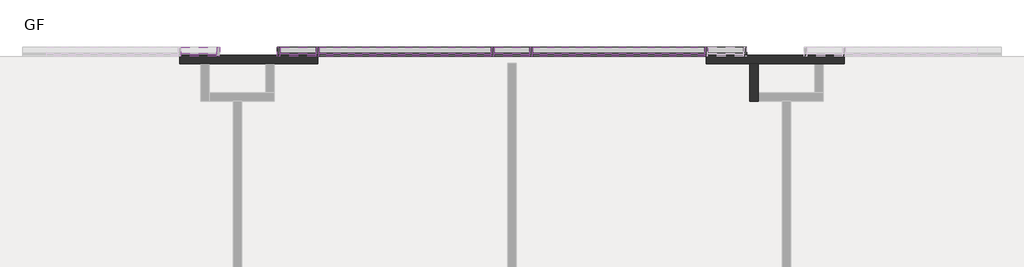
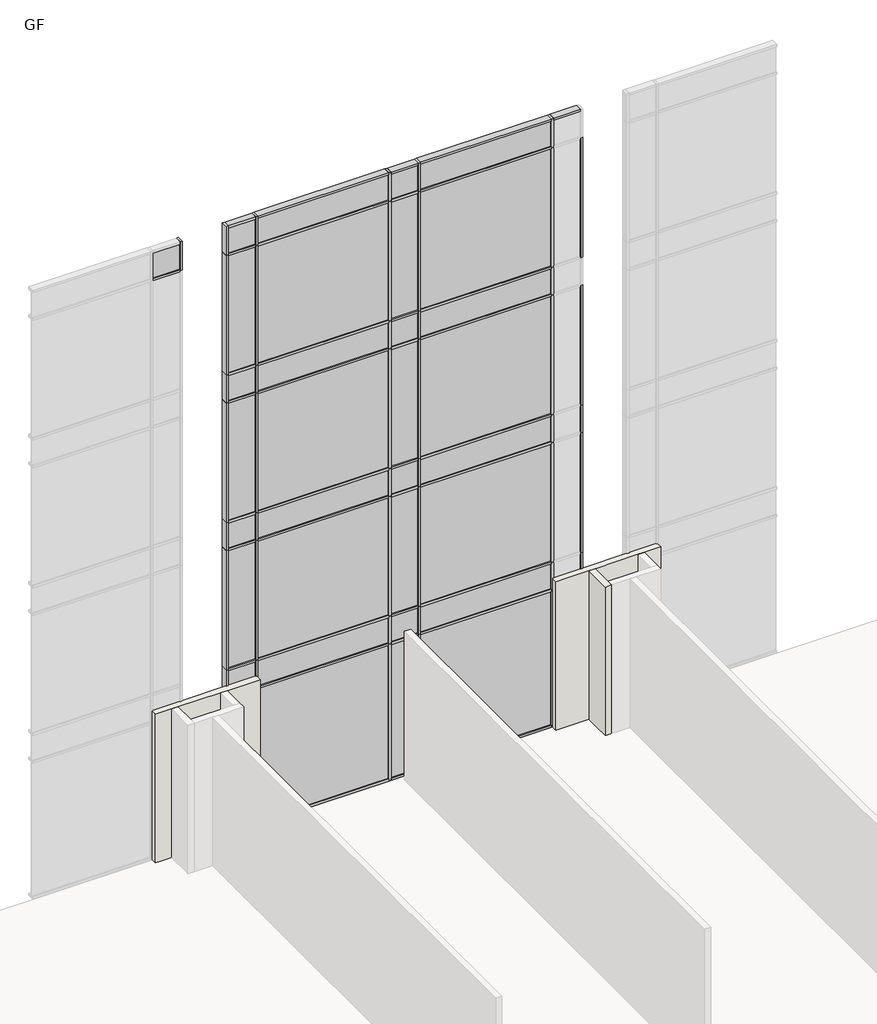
# One storey, part 21 of 23: 86 members, 33 plates, 3 walls.
"""IFC4 building model written with IfcOpenShell, lengths in millimetres."""

from ifc_helpers import new_model, si_unit, origin, place, context, project, spatial, faceted_brep, transform, mapped, element, save
from components import rectangular_mullion_50_x_150mm_64d38db8, rectangular_mullion_50_x_150mm_68b3818a, rectangular_mullion_50_x_150mm_f245f1eb, rectangular_mullion_50_x_150mm_d11e3bb4, rectangular_mullion_50_x_150mm_7d543e93, rectangular_mullion_50_x_150mm_9e0f1e24, rectangular_mullion_50_x_150mm_a95743fc, rectangular_mullion_50_x_150mm_dbb82e9e, rectangular_mullion_50_x_150mm_32aaa733, rectangular_mullion_50_x_150mm_9b8962c0, rectangular_mullion_50_x_150mm_7dcb5a67, rectangular_mullion_50_x_150mm_f1d86669, system_panel_glazed_f9f902e6, system_panel_glazed_6ff5b55b, system_panel_glazed_93ed122c, system_panel_glazed_66c44f38, system_panel_glazed_399b1310, system_panel_glazed_5ec2e07d

model = new_model("IFC4")

# Units and contexts
model_context = context("Model", 3, world=origin())
ifc_project = project(units=[si_unit("LENGTHUNIT", "METRE", prefix="MILLI")], contexts=[model_context])

# Site, building, storey
site = spatial("IfcSite", under=ifc_project)
building = spatial("IfcBuilding", under=site)
storey = spatial("IfcBuildingStorey", under=building, Name="GF", Elevation=900.0)

# Members
placement = place(None, origin())
rectangular_mullion_50_x_150mm_shape = rectangular_mullion_50_x_150mm_64d38db8(model_context)
element("IfcMember", 1, ObjectType="Rectangular Mullion : 50 x 150mm", at=placement, inside=storey, context=model_context, shape_type="MappedRepresentation", body=[
    mapped(rectangular_mullion_50_x_150mm_shape, transform((23452.4134101, 21322.3851347, 15125.0), x_axis=(0.0, 0.0, 1.0), y_axis=(0.0, -1.0, 0.0), z_axis=(1.0, 0.0, 0.0))),
])
element("IfcMember", 2, ObjectType="Rectangular Mullion : 50 x 150mm", at=placement, inside=storey, context=model_context, shape_type="MappedRepresentation", body=[
    mapped(rectangular_mullion_50_x_150mm_shape, transform((16262.4134101, 21322.3851347, 15125.0), x_axis=(0.0, 0.0, 1.0), y_axis=(0.0, -1.0, 0.0), z_axis=(1.0, 0.0, 0.0))),
])
element("IfcMember", 3, ObjectType="Rectangular Mullion : 50 x 150mm", at=placement, inside=storey, context=model_context, shape_type="MappedRepresentation", body=[
    mapped(rectangular_mullion_50_x_150mm_shape, transform((19857.4134101, 21322.3851347, 15125.0), x_axis=(0.0, 0.0, 1.0), y_axis=(0.0, -1.0, 0.0), z_axis=(1.0, 0.0, 0.0))),
])
element("IfcMember", 4, ObjectType="Rectangular Mullion : 50 x 150mm", at=placement, inside=storey, context=model_context, shape_type="MappedRepresentation", body=[
    mapped(rectangular_mullion_50_x_150mm_shape, transform((15662.4134101, 21322.3851347, 900.0), x_axis=(0.0, 0.0, -1.0), y_axis=(0.0, -1.0, 0.0), z_axis=(-1.0, 0.0, 0.0))),
])
element("IfcMember", 5, ObjectType="Rectangular Mullion : 50 x 150mm", at=placement, inside=storey, context=model_context, shape_type="MappedRepresentation", body=[
    mapped(rectangular_mullion_50_x_150mm_shape, transform((19257.4134101, 21322.3851347, 900.0), x_axis=(0.0, 0.0, -1.0), y_axis=(0.0, -1.0, 0.0), z_axis=(-1.0, 0.0, 0.0))),
])
element("IfcMember", 6, ObjectType="Rectangular Mullion : 50 x 150mm", at=placement, inside=storey, context=model_context, shape_type="MappedRepresentation", body=[
    mapped(rectangular_mullion_50_x_150mm_shape, transform((22852.4134101, 21322.3851347, 900.0), x_axis=(0.0, 0.0, -1.0), y_axis=(0.0, -1.0, 0.0), z_axis=(-1.0, 0.0, 0.0))),
])
rectangular_mullion_50_x_150mm_2_shape = rectangular_mullion_50_x_150mm_68b3818a(model_context)
element("IfcMember", 7, ObjectType="Rectangular Mullion : 50 x 150mm", at=placement, inside=storey, context=model_context, shape_type="MappedRepresentation", body=[
    mapped(rectangular_mullion_50_x_150mm_2_shape, transform((14592.4134101, 21322.3851347, 14450.0), x_axis=(0.0, 0.0, 1.0), y_axis=(0.0, -1.0, 0.0), z_axis=(1.0, 0.0, 0.0))),
])
element("IfcMember", 8, ObjectType="Rectangular Mullion : 50 x 150mm", at=placement, inside=storey, context=model_context, shape_type="MappedRepresentation", body=[
    mapped(rectangular_mullion_50_x_150mm_2_shape, transform((16262.4134101, 21322.3851347, 4750.0), x_axis=(0.0, 0.0, 1.0), y_axis=(0.0, -1.0, 0.0), z_axis=(1.0, 0.0, 0.0))),
])
element("IfcMember", 9, ObjectType="Rectangular Mullion : 50 x 150mm", at=placement, inside=storey, context=model_context, shape_type="MappedRepresentation", body=[
    mapped(rectangular_mullion_50_x_150mm_2_shape, transform((19857.4134101, 21322.3851347, 4750.0), x_axis=(0.0, 0.0, 1.0), y_axis=(0.0, -1.0, 0.0), z_axis=(1.0, 0.0, 0.0))),
])
element("IfcMember", 10, ObjectType="Rectangular Mullion : 50 x 150mm", at=placement, inside=storey, context=model_context, shape_type="MappedRepresentation", body=[
    mapped(rectangular_mullion_50_x_150mm_2_shape, transform((16262.4134101, 21322.3851347, 4100.0), x_axis=(0.0, 0.0, 1.0), y_axis=(0.0, -1.0, 0.0), z_axis=(1.0, 0.0, 0.0))),
])
element("IfcMember", 11, ObjectType="Rectangular Mullion : 50 x 150mm", at=placement, inside=storey, context=model_context, shape_type="MappedRepresentation", body=[
    mapped(rectangular_mullion_50_x_150mm_2_shape, transform((19857.4134101, 21322.3851347, 4100.0), x_axis=(0.0, 0.0, 1.0), y_axis=(0.0, -1.0, 0.0), z_axis=(1.0, 0.0, 0.0))),
])
element("IfcMember", 12, ObjectType="Rectangular Mullion : 50 x 150mm", at=placement, inside=storey, context=model_context, shape_type="MappedRepresentation", body=[
    mapped(rectangular_mullion_50_x_150mm_2_shape, transform((16262.4134101, 21322.3851347, 8200.0), x_axis=(0.0, 0.0, 1.0), y_axis=(0.0, -1.0, 0.0), z_axis=(1.0, 0.0, 0.0))),
])
element("IfcMember", 13, ObjectType="Rectangular Mullion : 50 x 150mm", at=placement, inside=storey, context=model_context, shape_type="MappedRepresentation", body=[
    mapped(rectangular_mullion_50_x_150mm_2_shape, transform((19857.4134101, 21322.3851347, 8200.0), x_axis=(0.0, 0.0, 1.0), y_axis=(0.0, -1.0, 0.0), z_axis=(1.0, 0.0, 0.0))),
])
element("IfcMember", 14, ObjectType="Rectangular Mullion : 50 x 150mm", at=placement, inside=storey, context=model_context, shape_type="MappedRepresentation", body=[
    mapped(rectangular_mullion_50_x_150mm_2_shape, transform((16262.4134101, 21322.3851347, 11650.0), x_axis=(0.0, 0.0, 1.0), y_axis=(0.0, -1.0, 0.0), z_axis=(1.0, 0.0, 0.0))),
])
element("IfcMember", 15, ObjectType="Rectangular Mullion : 50 x 150mm", at=placement, inside=storey, context=model_context, shape_type="MappedRepresentation", body=[
    mapped(rectangular_mullion_50_x_150mm_2_shape, transform((19857.4134101, 21322.3851347, 11650.0), x_axis=(0.0, 0.0, 1.0), y_axis=(0.0, -1.0, 0.0), z_axis=(1.0, 0.0, 0.0))),
])
element("IfcMember", 16, ObjectType="Rectangular Mullion : 50 x 150mm", at=placement, inside=storey, context=model_context, shape_type="MappedRepresentation", body=[
    mapped(rectangular_mullion_50_x_150mm_2_shape, transform((16262.4134101, 21322.3851347, 7550.0), x_axis=(0.0, 0.0, 1.0), y_axis=(0.0, -1.0, 0.0), z_axis=(1.0, 0.0, 0.0))),
])
element("IfcMember", 17, ObjectType="Rectangular Mullion : 50 x 150mm", at=placement, inside=storey, context=model_context, shape_type="MappedRepresentation", body=[
    mapped(rectangular_mullion_50_x_150mm_2_shape, transform((19857.4134101, 21322.3851347, 7550.0), x_axis=(0.0, 0.0, 1.0), y_axis=(0.0, -1.0, 0.0), z_axis=(1.0, 0.0, 0.0))),
])
element("IfcMember", 18, ObjectType="Rectangular Mullion : 50 x 150mm", at=placement, inside=storey, context=model_context, shape_type="MappedRepresentation", body=[
    mapped(rectangular_mullion_50_x_150mm_2_shape, transform((16262.4134101, 21322.3851347, 11000.0), x_axis=(0.0, 0.0, 1.0), y_axis=(0.0, -1.0, 0.0), z_axis=(1.0, 0.0, 0.0))),
])
element("IfcMember", 19, ObjectType="Rectangular Mullion : 50 x 150mm", at=placement, inside=storey, context=model_context, shape_type="MappedRepresentation", body=[
    mapped(rectangular_mullion_50_x_150mm_2_shape, transform((19857.4134101, 21322.3851347, 11000.0), x_axis=(0.0, 0.0, 1.0), y_axis=(0.0, -1.0, 0.0), z_axis=(1.0, 0.0, 0.0))),
])
element("IfcMember", 20, ObjectType="Rectangular Mullion : 50 x 150mm", at=placement, inside=storey, context=model_context, shape_type="MappedRepresentation", body=[
    mapped(rectangular_mullion_50_x_150mm_2_shape, transform((16262.4134101, 21322.3851347, 14450.0), x_axis=(0.0, 0.0, 1.0), y_axis=(0.0, -1.0, 0.0), z_axis=(1.0, 0.0, 0.0))),
])
element("IfcMember", 21, ObjectType="Rectangular Mullion : 50 x 150mm", at=placement, inside=storey, context=model_context, shape_type="MappedRepresentation", body=[
    mapped(rectangular_mullion_50_x_150mm_2_shape, transform((19857.4134101, 21322.3851347, 14450.0), x_axis=(0.0, 0.0, 1.0), y_axis=(0.0, -1.0, 0.0), z_axis=(1.0, 0.0, 0.0))),
])
rectangular_mullion_50_x_150mm_3_shape = rectangular_mullion_50_x_150mm_f245f1eb(model_context)
element("IfcMember", 22, ObjectType="Rectangular Mullion : 50 x 150mm", at=placement, inside=storey, context=model_context, shape_type="MappedRepresentation", body=[
    mapped(rectangular_mullion_50_x_150mm_3_shape, transform((16287.4134101, 21322.3851347, 900.0), x_axis=(1.0, 0.0, 0.0), y_axis=(0.0, -1.0, 0.0), z_axis=(0.0, 0.0, -1.0))),
])
element("IfcMember", 23, ObjectType="Rectangular Mullion : 50 x 150mm", at=placement, inside=storey, context=model_context, shape_type="MappedRepresentation", body=[
    mapped(rectangular_mullion_50_x_150mm_3_shape, transform((19232.4134101, 21322.3851347, 900.0), x_axis=(1.0, 0.0, 0.0), y_axis=(0.0, -1.0, 0.0), z_axis=(0.0, 0.0, -1.0))),
])
element("IfcMember", 24, ObjectType="Rectangular Mullion : 50 x 150mm", at=placement, inside=storey, context=model_context, shape_type="MappedRepresentation", body=[
    mapped(rectangular_mullion_50_x_150mm_3_shape, transform((19882.4134101, 21322.3851347, 900.0), x_axis=(1.0, 0.0, 0.0), y_axis=(0.0, -1.0, 0.0), z_axis=(0.0, 0.0, -1.0))),
])
element("IfcMember", 25, ObjectType="Rectangular Mullion : 50 x 150mm", at=placement, inside=storey, context=model_context, shape_type="MappedRepresentation", body=[
    mapped(rectangular_mullion_50_x_150mm_3_shape, transform((22827.4134101, 21322.3851347, 900.0), x_axis=(1.0, 0.0, 0.0), y_axis=(0.0, -1.0, 0.0), z_axis=(0.0, 0.0, -1.0))),
])
rectangular_mullion_50_x_150mm_4_shape = rectangular_mullion_50_x_150mm_d11e3bb4(model_context)
element("IfcMember", 26, ObjectType="Rectangular Mullion : 50 x 150mm", at=placement, inside=storey, context=model_context, shape_type="MappedRepresentation", body=[
    mapped(rectangular_mullion_50_x_150mm_4_shape, transform((16287.4134101, 21322.3851347, 4750.0), x_axis=(1.0, 0.0, 0.0), y_axis=(0.0, -1.0, 0.0), z_axis=(0.0, 0.0, -1.0))),
])
element("IfcMember", 27, ObjectType="Rectangular Mullion : 50 x 150mm", at=placement, inside=storey, context=model_context, shape_type="MappedRepresentation", body=[
    mapped(rectangular_mullion_50_x_150mm_4_shape, transform((19232.4134101, 21322.3851347, 4750.0), x_axis=(1.0, 0.0, 0.0), y_axis=(0.0, -1.0, 0.0), z_axis=(0.0, 0.0, -1.0))),
])
element("IfcMember", 28, ObjectType="Rectangular Mullion : 50 x 150mm", at=placement, inside=storey, context=model_context, shape_type="MappedRepresentation", body=[
    mapped(rectangular_mullion_50_x_150mm_4_shape, transform((16287.4134101, 21322.3851347, 8200.0), x_axis=(1.0, 0.0, 0.0), y_axis=(0.0, -1.0, 0.0), z_axis=(0.0, 0.0, -1.0))),
])
element("IfcMember", 29, ObjectType="Rectangular Mullion : 50 x 150mm", at=placement, inside=storey, context=model_context, shape_type="MappedRepresentation", body=[
    mapped(rectangular_mullion_50_x_150mm_4_shape, transform((19232.4134101, 21322.3851347, 8200.0), x_axis=(1.0, 0.0, 0.0), y_axis=(0.0, -1.0, 0.0), z_axis=(0.0, 0.0, -1.0))),
])
element("IfcMember", 30, ObjectType="Rectangular Mullion : 50 x 150mm", at=placement, inside=storey, context=model_context, shape_type="MappedRepresentation", body=[
    mapped(rectangular_mullion_50_x_150mm_4_shape, transform((16287.4134101, 21322.3851347, 11650.0), x_axis=(1.0, 0.0, 0.0), y_axis=(0.0, -1.0, 0.0), z_axis=(0.0, 0.0, -1.0))),
])
element("IfcMember", 31, ObjectType="Rectangular Mullion : 50 x 150mm", at=placement, inside=storey, context=model_context, shape_type="MappedRepresentation", body=[
    mapped(rectangular_mullion_50_x_150mm_4_shape, transform((19232.4134101, 21322.3851347, 11650.0), x_axis=(1.0, 0.0, 0.0), y_axis=(0.0, -1.0, 0.0), z_axis=(0.0, 0.0, -1.0))),
])
element("IfcMember", 32, ObjectType="Rectangular Mullion : 50 x 150mm", at=placement, inside=storey, context=model_context, shape_type="MappedRepresentation", body=[
    mapped(rectangular_mullion_50_x_150mm_4_shape, transform((19882.4134101, 21322.3851347, 4750.0), x_axis=(1.0, 0.0, 0.0), y_axis=(0.0, -1.0, 0.0), z_axis=(0.0, 0.0, -1.0))),
])
element("IfcMember", 33, ObjectType="Rectangular Mullion : 50 x 150mm", at=placement, inside=storey, context=model_context, shape_type="MappedRepresentation", body=[
    mapped(rectangular_mullion_50_x_150mm_4_shape, transform((19882.4134101, 21322.3851347, 8200.0), x_axis=(1.0, 0.0, 0.0), y_axis=(0.0, -1.0, 0.0), z_axis=(0.0, 0.0, -1.0))),
])
element("IfcMember", 34, ObjectType="Rectangular Mullion : 50 x 150mm", at=placement, inside=storey, context=model_context, shape_type="MappedRepresentation", body=[
    mapped(rectangular_mullion_50_x_150mm_4_shape, transform((19882.4134101, 21322.3851347, 11650.0), x_axis=(1.0, 0.0, 0.0), y_axis=(0.0, -1.0, 0.0), z_axis=(0.0, 0.0, -1.0))),
])
element("IfcMember", 35, ObjectType="Rectangular Mullion : 50 x 150mm", at=placement, inside=storey, context=model_context, shape_type="MappedRepresentation", body=[
    mapped(rectangular_mullion_50_x_150mm_4_shape, transform((22827.4134101, 21322.3851347, 4750.0), x_axis=(1.0, 0.0, 0.0), y_axis=(0.0, -1.0, 0.0), z_axis=(0.0, 0.0, -1.0))),
])
element("IfcMember", 36, ObjectType="Rectangular Mullion : 50 x 150mm", at=placement, inside=storey, context=model_context, shape_type="MappedRepresentation", body=[
    mapped(rectangular_mullion_50_x_150mm_4_shape, transform((22827.4134101, 21322.3851347, 8200.0), x_axis=(1.0, 0.0, 0.0), y_axis=(0.0, -1.0, 0.0), z_axis=(0.0, 0.0, -1.0))),
])
element("IfcMember", 37, ObjectType="Rectangular Mullion : 50 x 150mm", at=placement, inside=storey, context=model_context, shape_type="MappedRepresentation", body=[
    mapped(rectangular_mullion_50_x_150mm_4_shape, transform((22827.4134101, 21322.3851347, 11650.0), x_axis=(1.0, 0.0, 0.0), y_axis=(0.0, -1.0, 0.0), z_axis=(0.0, 0.0, -1.0))),
])
rectangular_mullion_50_x_150mm_5_shape = rectangular_mullion_50_x_150mm_7d543e93(model_context)
element("IfcMember", 38, ObjectType="Rectangular Mullion : 50 x 150mm", at=placement, inside=storey, context=model_context, shape_type="MappedRepresentation", body=[
    mapped(rectangular_mullion_50_x_150mm_5_shape, transform((16287.4134101, 21322.3851347, 4100.0), x_axis=(1.0, 0.0, 0.0), y_axis=(0.0, -1.0, 0.0), z_axis=(0.0, 0.0, -1.0))),
])
element("IfcMember", 39, ObjectType="Rectangular Mullion : 50 x 150mm", at=placement, inside=storey, context=model_context, shape_type="MappedRepresentation", body=[
    mapped(rectangular_mullion_50_x_150mm_5_shape, transform((19232.4134101, 21322.3851347, 4100.0), x_axis=(1.0, 0.0, 0.0), y_axis=(0.0, -1.0, 0.0), z_axis=(0.0, 0.0, -1.0))),
])
element("IfcMember", 40, ObjectType="Rectangular Mullion : 50 x 150mm", at=placement, inside=storey, context=model_context, shape_type="MappedRepresentation", body=[
    mapped(rectangular_mullion_50_x_150mm_5_shape, transform((16287.4134101, 21322.3851347, 7550.0), x_axis=(1.0, 0.0, 0.0), y_axis=(0.0, -1.0, 0.0), z_axis=(0.0, 0.0, -1.0))),
])
element("IfcMember", 41, ObjectType="Rectangular Mullion : 50 x 150mm", at=placement, inside=storey, context=model_context, shape_type="MappedRepresentation", body=[
    mapped(rectangular_mullion_50_x_150mm_5_shape, transform((19232.4134101, 21322.3851347, 7550.0), x_axis=(1.0, 0.0, 0.0), y_axis=(0.0, -1.0, 0.0), z_axis=(0.0, 0.0, -1.0))),
])
element("IfcMember", 42, ObjectType="Rectangular Mullion : 50 x 150mm", at=placement, inside=storey, context=model_context, shape_type="MappedRepresentation", body=[
    mapped(rectangular_mullion_50_x_150mm_5_shape, transform((16287.4134101, 21322.3851347, 11000.0), x_axis=(1.0, 0.0, 0.0), y_axis=(0.0, -1.0, 0.0), z_axis=(0.0, 0.0, -1.0))),
])
element("IfcMember", 43, ObjectType="Rectangular Mullion : 50 x 150mm", at=placement, inside=storey, context=model_context, shape_type="MappedRepresentation", body=[
    mapped(rectangular_mullion_50_x_150mm_5_shape, transform((19232.4134101, 21322.3851347, 11000.0), x_axis=(1.0, 0.0, 0.0), y_axis=(0.0, -1.0, 0.0), z_axis=(0.0, 0.0, -1.0))),
])
element("IfcMember", 44, ObjectType="Rectangular Mullion : 50 x 150mm", at=placement, inside=storey, context=model_context, shape_type="MappedRepresentation", body=[
    mapped(rectangular_mullion_50_x_150mm_5_shape, transform((19882.4134101, 21322.3851347, 4100.0), x_axis=(1.0, 0.0, 0.0), y_axis=(0.0, -1.0, 0.0), z_axis=(0.0, 0.0, -1.0))),
])
element("IfcMember", 45, ObjectType="Rectangular Mullion : 50 x 150mm", at=placement, inside=storey, context=model_context, shape_type="MappedRepresentation", body=[
    mapped(rectangular_mullion_50_x_150mm_5_shape, transform((19882.4134101, 21322.3851347, 7550.0), x_axis=(1.0, 0.0, 0.0), y_axis=(0.0, -1.0, 0.0), z_axis=(0.0, 0.0, -1.0))),
])
element("IfcMember", 46, ObjectType="Rectangular Mullion : 50 x 150mm", at=placement, inside=storey, context=model_context, shape_type="MappedRepresentation", body=[
    mapped(rectangular_mullion_50_x_150mm_5_shape, transform((19882.4134101, 21322.3851347, 11000.0), x_axis=(1.0, 0.0, 0.0), y_axis=(0.0, -1.0, 0.0), z_axis=(0.0, 0.0, -1.0))),
])
element("IfcMember", 47, ObjectType="Rectangular Mullion : 50 x 150mm", at=placement, inside=storey, context=model_context, shape_type="MappedRepresentation", body=[
    mapped(rectangular_mullion_50_x_150mm_5_shape, transform((22827.4134101, 21322.3851347, 4100.0), x_axis=(1.0, 0.0, 0.0), y_axis=(0.0, -1.0, 0.0), z_axis=(0.0, 0.0, -1.0))),
])
element("IfcMember", 48, ObjectType="Rectangular Mullion : 50 x 150mm", at=placement, inside=storey, context=model_context, shape_type="MappedRepresentation", body=[
    mapped(rectangular_mullion_50_x_150mm_5_shape, transform((22827.4134101, 21322.3851347, 7550.0), x_axis=(1.0, 0.0, 0.0), y_axis=(0.0, -1.0, 0.0), z_axis=(0.0, 0.0, -1.0))),
])
element("IfcMember", 49, ObjectType="Rectangular Mullion : 50 x 150mm", at=placement, inside=storey, context=model_context, shape_type="MappedRepresentation", body=[
    mapped(rectangular_mullion_50_x_150mm_5_shape, transform((22827.4134101, 21322.3851347, 11000.0), x_axis=(1.0, 0.0, 0.0), y_axis=(0.0, -1.0, 0.0), z_axis=(0.0, 0.0, -1.0))),
])
rectangular_mullion_50_x_150mm_6_shape = rectangular_mullion_50_x_150mm_9e0f1e24(model_context)
element("IfcMember", 50, ObjectType="Rectangular Mullion : 50 x 150mm", at=placement, inside=storey, context=model_context, shape_type="MappedRepresentation", body=[
    mapped(rectangular_mullion_50_x_150mm_6_shape, transform((16287.4134101, 21322.3851347, 14450.0), x_axis=(1.0, 0.0, 0.0), y_axis=(0.0, -1.0, 0.0), z_axis=(0.0, 0.0, -1.0))),
])
element("IfcMember", 51, ObjectType="Rectangular Mullion : 50 x 150mm", at=placement, inside=storey, context=model_context, shape_type="MappedRepresentation", body=[
    mapped(rectangular_mullion_50_x_150mm_6_shape, transform((19232.4134101, 21322.3851347, 14450.0), x_axis=(1.0, 0.0, 0.0), y_axis=(0.0, -1.0, 0.0), z_axis=(0.0, 0.0, -1.0))),
])
element("IfcMember", 52, ObjectType="Rectangular Mullion : 50 x 150mm", at=placement, inside=storey, context=model_context, shape_type="MappedRepresentation", body=[
    mapped(rectangular_mullion_50_x_150mm_6_shape, transform((19882.4134101, 21322.3851347, 14450.0), x_axis=(1.0, 0.0, 0.0), y_axis=(0.0, -1.0, 0.0), z_axis=(0.0, 0.0, -1.0))),
])
element("IfcMember", 53, ObjectType="Rectangular Mullion : 50 x 150mm", at=placement, inside=storey, context=model_context, shape_type="MappedRepresentation", body=[
    mapped(rectangular_mullion_50_x_150mm_6_shape, transform((22827.4134101, 21322.3851347, 14450.0), x_axis=(1.0, 0.0, 0.0), y_axis=(0.0, -1.0, 0.0), z_axis=(0.0, 0.0, -1.0))),
])
rectangular_mullion_50_x_150mm_7_shape = rectangular_mullion_50_x_150mm_a95743fc(model_context)
element("IfcMember", 54, ObjectType="Rectangular Mullion : 50 x 150mm", at=placement, inside=storey, context=model_context, shape_type="MappedRepresentation", body=[
    mapped(rectangular_mullion_50_x_150mm_7_shape, transform((23502.4134101, 21322.3851347, 900.0), x_axis=(1.0, 0.0, 0.0), y_axis=(0.0, -1.0, 0.0), z_axis=(0.0, 0.0, -1.0))),
])
rectangular_mullion_50_x_150mm_8_shape = rectangular_mullion_50_x_150mm_dbb82e9e(model_context)
element("IfcMember", 55, ObjectType="Rectangular Mullion : 50 x 150mm", at=placement, inside=storey, context=model_context, shape_type="MappedRepresentation", body=[
    mapped(rectangular_mullion_50_x_150mm_8_shape, transform((15612.4134101, 21322.3851347, 15125.0), x_axis=(-1.0, 0.0, 0.0), y_axis=(0.0, -1.0, 0.0), z_axis=(0.0, 0.0, 1.0))),
])
rectangular_mullion_50_x_150mm_9_shape = rectangular_mullion_50_x_150mm_32aaa733(model_context)
element("IfcMember", 56, ObjectType="Rectangular Mullion : 50 x 150mm", at=placement, inside=storey, context=model_context, shape_type="MappedRepresentation", body=[
    mapped(rectangular_mullion_50_x_150mm_9_shape, transform((23502.4134101, 21322.3851347, 4750.0), x_axis=(1.0, 0.0, 0.0), y_axis=(0.0, -1.0, 0.0), z_axis=(0.0, 0.0, -1.0))),
])
element("IfcMember", 57, ObjectType="Rectangular Mullion : 50 x 150mm", at=placement, inside=storey, context=model_context, shape_type="MappedRepresentation", body=[
    mapped(rectangular_mullion_50_x_150mm_9_shape, transform((23502.4134101, 21322.3851347, 8200.0), x_axis=(1.0, 0.0, 0.0), y_axis=(0.0, -1.0, 0.0), z_axis=(0.0, 0.0, -1.0))),
])
element("IfcMember", 58, ObjectType="Rectangular Mullion : 50 x 150mm", at=placement, inside=storey, context=model_context, shape_type="MappedRepresentation", body=[
    mapped(rectangular_mullion_50_x_150mm_9_shape, transform((23502.4134101, 21322.3851347, 11650.0), x_axis=(1.0, 0.0, 0.0), y_axis=(0.0, -1.0, 0.0), z_axis=(0.0, 0.0, -1.0))),
])
rectangular_mullion_50_x_150mm_10_shape = rectangular_mullion_50_x_150mm_9b8962c0(model_context)
element("IfcMember", 59, ObjectType="Rectangular Mullion : 50 x 150mm", at=placement, inside=storey, context=model_context, shape_type="MappedRepresentation", body=[
    mapped(rectangular_mullion_50_x_150mm_10_shape, transform((15612.4134101, 21322.3851347, 4750.0), x_axis=(-1.0, 0.0, 0.0), y_axis=(0.0, -1.0, 0.0), z_axis=(0.0, 0.0, 1.0))),
])
element("IfcMember", 60, ObjectType="Rectangular Mullion : 50 x 150mm", at=placement, inside=storey, context=model_context, shape_type="MappedRepresentation", body=[
    mapped(rectangular_mullion_50_x_150mm_10_shape, transform((15612.4134101, 21322.3851347, 8200.0), x_axis=(-1.0, 0.0, 0.0), y_axis=(0.0, -1.0, 0.0), z_axis=(0.0, 0.0, 1.0))),
])
element("IfcMember", 61, ObjectType="Rectangular Mullion : 50 x 150mm", at=placement, inside=storey, context=model_context, shape_type="MappedRepresentation", body=[
    mapped(rectangular_mullion_50_x_150mm_10_shape, transform((15612.4134101, 21322.3851347, 11650.0), x_axis=(-1.0, 0.0, 0.0), y_axis=(0.0, -1.0, 0.0), z_axis=(0.0, 0.0, 1.0))),
])
element("IfcMember", 62, ObjectType="Rectangular Mullion : 50 x 150mm", at=placement, inside=storey, context=model_context, shape_type="MappedRepresentation", body=[
    mapped(rectangular_mullion_50_x_150mm_10_shape, transform((23502.4134101, 21322.3851347, 4100.0), x_axis=(1.0, 0.0, 0.0), y_axis=(0.0, -1.0, 0.0), z_axis=(0.0, 0.0, -1.0))),
])
element("IfcMember", 63, ObjectType="Rectangular Mullion : 50 x 150mm", at=placement, inside=storey, context=model_context, shape_type="MappedRepresentation", body=[
    mapped(rectangular_mullion_50_x_150mm_10_shape, transform((23502.4134101, 21322.3851347, 7550.0), x_axis=(1.0, 0.0, 0.0), y_axis=(0.0, -1.0, 0.0), z_axis=(0.0, 0.0, -1.0))),
])
element("IfcMember", 64, ObjectType="Rectangular Mullion : 50 x 150mm", at=placement, inside=storey, context=model_context, shape_type="MappedRepresentation", body=[
    mapped(rectangular_mullion_50_x_150mm_7_shape, transform((15612.4134101, 21322.3851347, 4100.0), x_axis=(-1.0, 0.0, 0.0), y_axis=(0.0, -1.0, 0.0), z_axis=(0.0, 0.0, 1.0))),
])
element("IfcMember", 65, ObjectType="Rectangular Mullion : 50 x 150mm", at=placement, inside=storey, context=model_context, shape_type="MappedRepresentation", body=[
    mapped(rectangular_mullion_50_x_150mm_9_shape, transform((15612.4134101, 21322.3851347, 7550.0), x_axis=(-1.0, 0.0, 0.0), y_axis=(0.0, -1.0, 0.0), z_axis=(0.0, 0.0, 1.0))),
])
element("IfcMember", 66, ObjectType="Rectangular Mullion : 50 x 150mm", at=placement, inside=storey, context=model_context, shape_type="MappedRepresentation", body=[
    mapped(rectangular_mullion_50_x_150mm_9_shape, transform((15612.4134101, 21322.3851347, 11000.0), x_axis=(-1.0, 0.0, 0.0), y_axis=(0.0, -1.0, 0.0), z_axis=(0.0, 0.0, 1.0))),
])
element("IfcMember", 67, ObjectType="Rectangular Mullion : 50 x 150mm", at=placement, inside=storey, context=model_context, shape_type="MappedRepresentation", body=[
    mapped(rectangular_mullion_50_x_150mm_9_shape, transform((15612.4134101, 21322.3851347, 14450.0), x_axis=(-1.0, 0.0, 0.0), y_axis=(0.0, -1.0, 0.0), z_axis=(0.0, 0.0, 1.0))),
])
element("IfcMember", 68, ObjectType="Rectangular Mullion : 50 x 150mm", at=placement, inside=storey, context=model_context, shape_type="MappedRepresentation", body=[
    mapped(rectangular_mullion_50_x_150mm_8_shape, transform((14642.4134101, 21322.3851347, 14450.0), x_axis=(1.0, 0.0, 0.0), y_axis=(0.0, -1.0, 0.0), z_axis=(0.0, 0.0, -1.0))),
])
rectangular_mullion_50_x_150mm_11_shape = rectangular_mullion_50_x_150mm_7dcb5a67(model_context)
element("IfcMember", 69, ObjectType="Rectangular Mullion : 50 x 150mm", at=placement, inside=storey, context=model_context, shape_type="MappedRepresentation", body=[
    mapped(rectangular_mullion_50_x_150mm_11_shape, transform((16312.4134101, 21322.3851347, 900.0), x_axis=(0.0, 0.0, -1.0), y_axis=(0.0, -1.0, 0.0), z_axis=(-1.0, 0.0, 0.0))),
])
element("IfcMember", 70, ObjectType="Rectangular Mullion : 50 x 150mm", at=placement, inside=storey, context=model_context, shape_type="MappedRepresentation", body=[
    mapped(rectangular_mullion_50_x_150mm_11_shape, transform((19907.4134101, 21322.3851347, 900.0), x_axis=(0.0, 0.0, -1.0), y_axis=(0.0, -1.0, 0.0), z_axis=(-1.0, 0.0, 0.0))),
])
element("IfcMember", 71, ObjectType="Rectangular Mullion : 50 x 150mm", at=placement, inside=storey, context=model_context, shape_type="MappedRepresentation", body=[
    mapped(rectangular_mullion_50_x_150mm_11_shape, transform((19207.4134101, 21322.3851347, 15125.0), x_axis=(0.0, 0.0, 1.0), y_axis=(0.0, -1.0, 0.0), z_axis=(1.0, 0.0, 0.0))),
])
element("IfcMember", 72, ObjectType="Rectangular Mullion : 50 x 150mm", at=placement, inside=storey, context=model_context, shape_type="MappedRepresentation", body=[
    mapped(rectangular_mullion_50_x_150mm_11_shape, transform((22802.4134101, 21322.3851347, 15125.0), x_axis=(0.0, 0.0, 1.0), y_axis=(0.0, -1.0, 0.0), z_axis=(1.0, 0.0, 0.0))),
])
rectangular_mullion_50_x_150mm_12_shape = rectangular_mullion_50_x_150mm_f1d86669(model_context)
element("IfcMember", 73, ObjectType="Rectangular Mullion : 50 x 150mm", at=placement, inside=storey, context=model_context, shape_type="MappedRepresentation", body=[
    mapped(rectangular_mullion_50_x_150mm_12_shape, transform((19207.4134101, 21322.3851347, 4750.0), x_axis=(0.0, 0.0, 1.0), y_axis=(0.0, -1.0, 0.0), z_axis=(1.0, 0.0, 0.0))),
])
element("IfcMember", 74, ObjectType="Rectangular Mullion : 50 x 150mm", at=placement, inside=storey, context=model_context, shape_type="MappedRepresentation", body=[
    mapped(rectangular_mullion_50_x_150mm_12_shape, transform((19207.4134101, 21322.3851347, 4100.0), x_axis=(0.0, 0.0, 1.0), y_axis=(0.0, -1.0, 0.0), z_axis=(1.0, 0.0, 0.0))),
])
element("IfcMember", 75, ObjectType="Rectangular Mullion : 50 x 150mm", at=placement, inside=storey, context=model_context, shape_type="MappedRepresentation", body=[
    mapped(rectangular_mullion_50_x_150mm_12_shape, transform((19207.4134101, 21322.3851347, 8200.0), x_axis=(0.0, 0.0, 1.0), y_axis=(0.0, -1.0, 0.0), z_axis=(1.0, 0.0, 0.0))),
])
element("IfcMember", 76, ObjectType="Rectangular Mullion : 50 x 150mm", at=placement, inside=storey, context=model_context, shape_type="MappedRepresentation", body=[
    mapped(rectangular_mullion_50_x_150mm_12_shape, transform((19207.4134101, 21322.3851347, 11650.0), x_axis=(0.0, 0.0, 1.0), y_axis=(0.0, -1.0, 0.0), z_axis=(1.0, 0.0, 0.0))),
])
element("IfcMember", 77, ObjectType="Rectangular Mullion : 50 x 150mm", at=placement, inside=storey, context=model_context, shape_type="MappedRepresentation", body=[
    mapped(rectangular_mullion_50_x_150mm_12_shape, transform((19207.4134101, 21322.3851347, 7550.0), x_axis=(0.0, 0.0, 1.0), y_axis=(0.0, -1.0, 0.0), z_axis=(1.0, 0.0, 0.0))),
])
element("IfcMember", 78, ObjectType="Rectangular Mullion : 50 x 150mm", at=placement, inside=storey, context=model_context, shape_type="MappedRepresentation", body=[
    mapped(rectangular_mullion_50_x_150mm_12_shape, transform((19207.4134101, 21322.3851347, 11000.0), x_axis=(0.0, 0.0, 1.0), y_axis=(0.0, -1.0, 0.0), z_axis=(1.0, 0.0, 0.0))),
])
element("IfcMember", 79, ObjectType="Rectangular Mullion : 50 x 150mm", at=placement, inside=storey, context=model_context, shape_type="MappedRepresentation", body=[
    mapped(rectangular_mullion_50_x_150mm_12_shape, transform((19207.4134101, 21322.3851347, 14450.0), x_axis=(0.0, 0.0, 1.0), y_axis=(0.0, -1.0, 0.0), z_axis=(1.0, 0.0, 0.0))),
])
element("IfcMember", 80, ObjectType="Rectangular Mullion : 50 x 150mm", at=placement, inside=storey, context=model_context, shape_type="MappedRepresentation", body=[
    mapped(rectangular_mullion_50_x_150mm_12_shape, transform((22802.4134101, 21322.3851347, 4100.0), x_axis=(0.0, 0.0, 1.0), y_axis=(0.0, -1.0, 0.0), z_axis=(1.0, 0.0, 0.0))),
])
element("IfcMember", 81, ObjectType="Rectangular Mullion : 50 x 150mm", at=placement, inside=storey, context=model_context, shape_type="MappedRepresentation", body=[
    mapped(rectangular_mullion_50_x_150mm_12_shape, transform((22802.4134101, 21322.3851347, 4750.0), x_axis=(0.0, 0.0, 1.0), y_axis=(0.0, -1.0, 0.0), z_axis=(1.0, 0.0, 0.0))),
])
element("IfcMember", 82, ObjectType="Rectangular Mullion : 50 x 150mm", at=placement, inside=storey, context=model_context, shape_type="MappedRepresentation", body=[
    mapped(rectangular_mullion_50_x_150mm_12_shape, transform((22802.4134101, 21322.3851347, 7550.0), x_axis=(0.0, 0.0, 1.0), y_axis=(0.0, -1.0, 0.0), z_axis=(1.0, 0.0, 0.0))),
])
element("IfcMember", 83, ObjectType="Rectangular Mullion : 50 x 150mm", at=placement, inside=storey, context=model_context, shape_type="MappedRepresentation", body=[
    mapped(rectangular_mullion_50_x_150mm_12_shape, transform((22802.4134101, 21322.3851347, 8200.0), x_axis=(0.0, 0.0, 1.0), y_axis=(0.0, -1.0, 0.0), z_axis=(1.0, 0.0, 0.0))),
])
element("IfcMember", 84, ObjectType="Rectangular Mullion : 50 x 150mm", at=placement, inside=storey, context=model_context, shape_type="MappedRepresentation", body=[
    mapped(rectangular_mullion_50_x_150mm_12_shape, transform((22802.4134101, 21322.3851347, 11000.0), x_axis=(0.0, 0.0, 1.0), y_axis=(0.0, -1.0, 0.0), z_axis=(1.0, 0.0, 0.0))),
])
element("IfcMember", 85, ObjectType="Rectangular Mullion : 50 x 150mm", at=placement, inside=storey, context=model_context, shape_type="MappedRepresentation", body=[
    mapped(rectangular_mullion_50_x_150mm_12_shape, transform((22802.4134101, 21322.3851347, 11650.0), x_axis=(0.0, 0.0, 1.0), y_axis=(0.0, -1.0, 0.0), z_axis=(1.0, 0.0, 0.0))),
])
element("IfcMember", 86, ObjectType="Rectangular Mullion : 50 x 150mm", at=placement, inside=storey, context=model_context, shape_type="MappedRepresentation", body=[
    mapped(rectangular_mullion_50_x_150mm_12_shape, transform((22802.4134101, 21322.3851347, 14450.0), x_axis=(0.0, 0.0, 1.0), y_axis=(0.0, -1.0, 0.0), z_axis=(1.0, 0.0, 0.0))),
])

# Plates
system_panel_glazed_shape = system_panel_glazed_f9f902e6(model_context)
element("IfcPlate", 87, ObjectType="System Panel : Glazed", at=placement, inside=storey, context=model_context, shape_type="MappedRepresentation", body=[
    mapped(system_panel_glazed_shape, transform((15962.4134101, 21322.3851347, 950.0), x_axis=(1.0, 0.0, 0.0), y_axis=(0.0, 1.0, 0.0), z_axis=(0.0, 0.0, 1.0))),
])
element("IfcPlate", 88, ObjectType="System Panel : Glazed", at=placement, inside=storey, context=model_context, shape_type="MappedRepresentation", body=[
    mapped(system_panel_glazed_shape, transform((19557.4134101, 21322.3851347, 950.0), x_axis=(1.0, 0.0, 0.0), y_axis=(0.0, 1.0, 0.0), z_axis=(0.0, 0.0, 1.0))),
])
system_panel_glazed_2_shape = system_panel_glazed_6ff5b55b(model_context)
element("IfcPlate", 89, ObjectType="System Panel : Glazed", at=placement, inside=storey, context=model_context, shape_type="MappedRepresentation", body=[
    mapped(system_panel_glazed_2_shape, transform((15962.4134101, 21322.3851347, 4775.0), x_axis=(1.0, 0.0, 0.0), y_axis=(0.0, 1.0, 0.0), z_axis=(0.0, 0.0, 1.0))),
])
element("IfcPlate", 90, ObjectType="System Panel : Glazed", at=placement, inside=storey, context=model_context, shape_type="MappedRepresentation", body=[
    mapped(system_panel_glazed_2_shape, transform((19557.4134101, 21322.3851347, 4775.0), x_axis=(1.0, 0.0, 0.0), y_axis=(0.0, 1.0, 0.0), z_axis=(0.0, 0.0, 1.0))),
])
element("IfcPlate", 91, ObjectType="System Panel : Glazed", at=placement, inside=storey, context=model_context, shape_type="MappedRepresentation", body=[
    mapped(system_panel_glazed_2_shape, transform((15962.4134101, 21322.3851347, 8225.0), x_axis=(1.0, 0.0, 0.0), y_axis=(0.0, 1.0, 0.0), z_axis=(0.0, 0.0, 1.0))),
])
element("IfcPlate", 92, ObjectType="System Panel : Glazed", at=placement, inside=storey, context=model_context, shape_type="MappedRepresentation", body=[
    mapped(system_panel_glazed_2_shape, transform((19557.4134101, 21322.3851347, 8225.0), x_axis=(1.0, 0.0, 0.0), y_axis=(0.0, 1.0, 0.0), z_axis=(0.0, 0.0, 1.0))),
])
element("IfcPlate", 93, ObjectType="System Panel : Glazed", at=placement, inside=storey, context=model_context, shape_type="MappedRepresentation", body=[
    mapped(system_panel_glazed_2_shape, transform((15962.4134101, 21322.3851347, 11675.0), x_axis=(1.0, 0.0, 0.0), y_axis=(0.0, 1.0, 0.0), z_axis=(0.0, 0.0, 1.0))),
])
element("IfcPlate", 94, ObjectType="System Panel : Glazed", at=placement, inside=storey, context=model_context, shape_type="MappedRepresentation", body=[
    mapped(system_panel_glazed_2_shape, transform((19557.4134101, 21322.3851347, 11675.0), x_axis=(1.0, 0.0, 0.0), y_axis=(0.0, 1.0, 0.0), z_axis=(0.0, 0.0, 1.0))),
])
system_panel_glazed_3_shape = system_panel_glazed_93ed122c(model_context)
element("IfcPlate", 95, ObjectType="System Panel : Glazed", at=placement, inside=storey, context=model_context, shape_type="MappedRepresentation", body=[
    mapped(system_panel_glazed_3_shape, transform((14292.4134101, 21322.3851347, 14475.0), x_axis=(1.0, 0.0, 0.0), y_axis=(0.0, 1.0, 0.0), z_axis=(0.0, 0.0, 1.0))),
])
element("IfcPlate", 96, ObjectType="System Panel : Glazed", at=placement, inside=storey, context=model_context, shape_type="MappedRepresentation", body=[
    mapped(system_panel_glazed_3_shape, transform((15962.4134101, 21322.3851347, 4125.0), x_axis=(1.0, 0.0, 0.0), y_axis=(0.0, 1.0, 0.0), z_axis=(0.0, 0.0, 1.0))),
])
element("IfcPlate", 97, ObjectType="System Panel : Glazed", at=placement, inside=storey, context=model_context, shape_type="MappedRepresentation", body=[
    mapped(system_panel_glazed_3_shape, transform((19557.4134101, 21322.3851347, 4125.0), x_axis=(1.0, 0.0, 0.0), y_axis=(0.0, 1.0, 0.0), z_axis=(0.0, 0.0, 1.0))),
])
element("IfcPlate", 98, ObjectType="System Panel : Glazed", at=placement, inside=storey, context=model_context, shape_type="MappedRepresentation", body=[
    mapped(system_panel_glazed_3_shape, transform((15962.4134101, 21322.3851347, 7575.0), x_axis=(1.0, 0.0, 0.0), y_axis=(0.0, 1.0, 0.0), z_axis=(0.0, 0.0, 1.0))),
])
element("IfcPlate", 99, ObjectType="System Panel : Glazed", at=placement, inside=storey, context=model_context, shape_type="MappedRepresentation", body=[
    mapped(system_panel_glazed_3_shape, transform((19557.4134101, 21322.3851347, 7575.0), x_axis=(1.0, 0.0, 0.0), y_axis=(0.0, 1.0, 0.0), z_axis=(0.0, 0.0, 1.0))),
])
element("IfcPlate", 100, ObjectType="System Panel : Glazed", at=placement, inside=storey, context=model_context, shape_type="MappedRepresentation", body=[
    mapped(system_panel_glazed_3_shape, transform((15962.4134101, 21322.3851347, 11025.0), x_axis=(1.0, 0.0, 0.0), y_axis=(0.0, 1.0, 0.0), z_axis=(0.0, 0.0, 1.0))),
])
element("IfcPlate", 101, ObjectType="System Panel : Glazed", at=placement, inside=storey, context=model_context, shape_type="MappedRepresentation", body=[
    mapped(system_panel_glazed_3_shape, transform((19557.4134101, 21322.3851347, 11025.0), x_axis=(1.0, 0.0, 0.0), y_axis=(0.0, 1.0, 0.0), z_axis=(0.0, 0.0, 1.0))),
])
element("IfcPlate", 102, ObjectType="System Panel : Glazed", at=placement, inside=storey, context=model_context, shape_type="MappedRepresentation", body=[
    mapped(system_panel_glazed_3_shape, transform((15962.4134101, 21322.3851347, 14475.0), x_axis=(1.0, 0.0, 0.0), y_axis=(0.0, 1.0, 0.0), z_axis=(0.0, 0.0, 1.0))),
])
element("IfcPlate", 103, ObjectType="System Panel : Glazed", at=placement, inside=storey, context=model_context, shape_type="MappedRepresentation", body=[
    mapped(system_panel_glazed_3_shape, transform((19557.4134101, 21322.3851347, 14475.0), x_axis=(1.0, 0.0, 0.0), y_axis=(0.0, 1.0, 0.0), z_axis=(0.0, 0.0, 1.0))),
])
system_panel_glazed_4_shape = system_panel_glazed_66c44f38(model_context)
element("IfcPlate", 104, ObjectType="System Panel : Glazed", at=placement, inside=storey, context=model_context, shape_type="MappedRepresentation", body=[
    mapped(system_panel_glazed_4_shape, transform((17759.9134101, 21322.3851347, 950.0), x_axis=(1.0, 0.0, 0.0), y_axis=(0.0, 1.0, 0.0), z_axis=(0.0, 0.0, 1.0))),
])
element("IfcPlate", 105, ObjectType="System Panel : Glazed", at=placement, inside=storey, context=model_context, shape_type="MappedRepresentation", body=[
    mapped(system_panel_glazed_4_shape, transform((21354.9134101, 21322.3851347, 950.0), x_axis=(1.0, 0.0, 0.0), y_axis=(0.0, 1.0, 0.0), z_axis=(0.0, 0.0, 1.0))),
])
system_panel_glazed_5_shape = system_panel_glazed_399b1310(model_context)
element("IfcPlate", 106, ObjectType="System Panel : Glazed", at=placement, inside=storey, context=model_context, shape_type="MappedRepresentation", body=[
    mapped(system_panel_glazed_5_shape, transform((17759.9134101, 21322.3851347, 4775.0), x_axis=(1.0, 0.0, 0.0), y_axis=(0.0, 1.0, 0.0), z_axis=(0.0, 0.0, 1.0))),
])
element("IfcPlate", 107, ObjectType="System Panel : Glazed", at=placement, inside=storey, context=model_context, shape_type="MappedRepresentation", body=[
    mapped(system_panel_glazed_5_shape, transform((17759.9134101, 21322.3851347, 8225.0), x_axis=(1.0, 0.0, 0.0), y_axis=(0.0, 1.0, 0.0), z_axis=(0.0, 0.0, 1.0))),
])
element("IfcPlate", 108, ObjectType="System Panel : Glazed", at=placement, inside=storey, context=model_context, shape_type="MappedRepresentation", body=[
    mapped(system_panel_glazed_5_shape, transform((17759.9134101, 21322.3851347, 11675.0), x_axis=(1.0, 0.0, 0.0), y_axis=(0.0, 1.0, 0.0), z_axis=(0.0, 0.0, 1.0))),
])
element("IfcPlate", 109, ObjectType="System Panel : Glazed", at=placement, inside=storey, context=model_context, shape_type="MappedRepresentation", body=[
    mapped(system_panel_glazed_5_shape, transform((21354.9134101, 21322.3851347, 4775.0), x_axis=(1.0, 0.0, 0.0), y_axis=(0.0, 1.0, 0.0), z_axis=(0.0, 0.0, 1.0))),
])
element("IfcPlate", 110, ObjectType="System Panel : Glazed", at=placement, inside=storey, context=model_context, shape_type="MappedRepresentation", body=[
    mapped(system_panel_glazed_5_shape, transform((21354.9134101, 21322.3851347, 8225.0), x_axis=(1.0, 0.0, 0.0), y_axis=(0.0, 1.0, 0.0), z_axis=(0.0, 0.0, 1.0))),
])
element("IfcPlate", 111, ObjectType="System Panel : Glazed", at=placement, inside=storey, context=model_context, shape_type="MappedRepresentation", body=[
    mapped(system_panel_glazed_5_shape, transform((21354.9134101, 21322.3851347, 11675.0), x_axis=(1.0, 0.0, 0.0), y_axis=(0.0, 1.0, 0.0), z_axis=(0.0, 0.0, 1.0))),
])
system_panel_glazed_6_shape = system_panel_glazed_5ec2e07d(model_context)
element("IfcPlate", 112, ObjectType="System Panel : Glazed", at=placement, inside=storey, context=model_context, shape_type="MappedRepresentation", body=[
    mapped(system_panel_glazed_6_shape, transform((17759.9134101, 21322.3851347, 4125.0), x_axis=(1.0, 0.0, 0.0), y_axis=(0.0, 1.0, 0.0), z_axis=(0.0, 0.0, 1.0))),
])
element("IfcPlate", 113, ObjectType="System Panel : Glazed", at=placement, inside=storey, context=model_context, shape_type="MappedRepresentation", body=[
    mapped(system_panel_glazed_6_shape, transform((17759.9134101, 21322.3851347, 7575.0), x_axis=(1.0, 0.0, 0.0), y_axis=(0.0, 1.0, 0.0), z_axis=(0.0, 0.0, 1.0))),
])
element("IfcPlate", 114, ObjectType="System Panel : Glazed", at=placement, inside=storey, context=model_context, shape_type="MappedRepresentation", body=[
    mapped(system_panel_glazed_6_shape, transform((17759.9134101, 21322.3851347, 11025.0), x_axis=(1.0, 0.0, 0.0), y_axis=(0.0, 1.0, 0.0), z_axis=(0.0, 0.0, 1.0))),
])
element("IfcPlate", 115, ObjectType="System Panel : Glazed", at=placement, inside=storey, context=model_context, shape_type="MappedRepresentation", body=[
    mapped(system_panel_glazed_6_shape, transform((17759.9134101, 21322.3851347, 14475.0), x_axis=(1.0, 0.0, 0.0), y_axis=(0.0, 1.0, 0.0), z_axis=(0.0, 0.0, 1.0))),
])
element("IfcPlate", 116, ObjectType="System Panel : Glazed", at=placement, inside=storey, context=model_context, shape_type="MappedRepresentation", body=[
    mapped(system_panel_glazed_6_shape, transform((21354.9134101, 21322.3851347, 4125.0), x_axis=(1.0, 0.0, 0.0), y_axis=(0.0, 1.0, 0.0), z_axis=(0.0, 0.0, 1.0))),
])
element("IfcPlate", 117, ObjectType="System Panel : Glazed", at=placement, inside=storey, context=model_context, shape_type="MappedRepresentation", body=[
    mapped(system_panel_glazed_6_shape, transform((21354.9134101, 21322.3851347, 7575.0), x_axis=(1.0, 0.0, 0.0), y_axis=(0.0, 1.0, 0.0), z_axis=(0.0, 0.0, 1.0))),
])
element("IfcPlate", 118, ObjectType="System Panel : Glazed", at=placement, inside=storey, context=model_context, shape_type="MappedRepresentation", body=[
    mapped(system_panel_glazed_6_shape, transform((21354.9134101, 21322.3851347, 11025.0), x_axis=(1.0, 0.0, 0.0), y_axis=(0.0, 1.0, 0.0), z_axis=(0.0, 0.0, 1.0))),
])
element("IfcPlate", 119, ObjectType="System Panel : Glazed", at=placement, inside=storey, context=model_context, shape_type="MappedRepresentation", body=[
    mapped(system_panel_glazed_6_shape, transform((21354.9134101, 21322.3851347, 14475.0), x_axis=(1.0, 0.0, 0.0), y_axis=(0.0, 1.0, 0.0), z_axis=(0.0, 0.0, 1.0))),
])

# Walls
element("IfcWall", 120, ObjectType="wall-115", at=placement, inside=storey, context=model_context, shape_type="Brep", body=[
    faceted_brep([(23557.4134101, 21117.3851347, 900.0), (23557.4134101, 20487.3851347, 900.0), (23557.4134101, 20487.3851347, 4375.0), (23557.4134101, 21117.3851347, 4375.0), (23699.4134101, 21117.3851347, 900.0), (23699.4134101, 21117.3851347, 4375.0), (23699.4134101, 20629.3851347, 4375.0), (23699.4134101, 20487.3851347, 4375.0), (23699.4134101, 20487.3851347, 900.0), (23699.4134101, 20629.3851347, 900.0)], [[[0, 1, 2, 3]], [[4, 5, 6, 7, 8, 9]], [[1, 0, 4, 9, 8]], [[2, 1, 8, 7]], [[0, 3, 5, 4]], [[3, 2, 7, 6, 5]]]),
])
element("IfcWall", 121, ObjectType="wall-115", at=placement, inside=storey, context=model_context, shape_type="Brep", body=[
    faceted_brep([(13967.4134101, 21117.3851347, 900.0), (14327.4134101, 21117.3851347, 900.0), (14469.4134101, 21117.3851347, 900.0), (15415.4134101, 21117.3851347, 900.0), (15557.4134101, 21117.3851347, 900.0), (16287.4134101, 21117.3851347, 900.0), (16287.4134101, 21117.3851347, 4375.0), (15557.4134101, 21117.3851347, 4375.0), (15415.4134101, 21117.3851347, 4375.0), (14469.4134101, 21117.3851347, 4375.0), (14327.4134101, 21117.3851347, 4375.0), (13967.4134101, 21117.3851347, 4375.0), (13967.4134101, 21259.3851347, 900.0), (13967.4134101, 21259.3851347, 4375.0), (16287.4134101, 21259.3851347, 4375.0), (16287.4134101, 21259.3851347, 900.0)], [[[0, 1, 2, 3, 4, 5, 6, 7, 8, 9, 10, 11]], [[12, 13, 14, 15]], [[5, 4, 3, 2, 1, 0, 12, 15]], [[6, 5, 15, 14]], [[0, 11, 13, 12]], [[11, 10, 9, 8, 7, 6, 14, 13]]]),
])
element("IfcWall", 122, ObjectType="wall-115", at=placement, inside=storey, context=model_context, shape_type="Brep", body=[
    faceted_brep([(22827.4134101, 21117.3851347, 900.0), (23557.4134101, 21117.3851347, 900.0), (23699.4134101, 21117.3851347, 900.0), (24645.4134101, 21117.3851347, 900.0), (24787.4134101, 21117.3851347, 900.0), (25147.4134101, 21117.3851347, 900.0), (25147.4134101, 21117.3851347, 4375.0), (24787.4134101, 21117.3851347, 4375.0), (24645.4134101, 21117.3851347, 4375.0), (23699.4134101, 21117.3851347, 4375.0), (23557.4134101, 21117.3851347, 4375.0), (22827.4134101, 21117.3851347, 4375.0), (22827.4134101, 21259.3851347, 900.0), (22827.4134101, 21259.3851347, 4375.0), (25147.4134101, 21259.3851347, 4375.0), (25147.4134101, 21259.3851347, 900.0)], [[[0, 1, 2, 3, 4, 5, 6, 7, 8, 9, 10, 11]], [[12, 13, 14, 15]], [[5, 4, 3, 2, 1, 0, 12, 15]], [[6, 5, 15, 14]], [[0, 11, 13, 12]], [[11, 10, 9, 8, 7, 6, 14, 13]]]),
])

save(model, "model.ifc")
